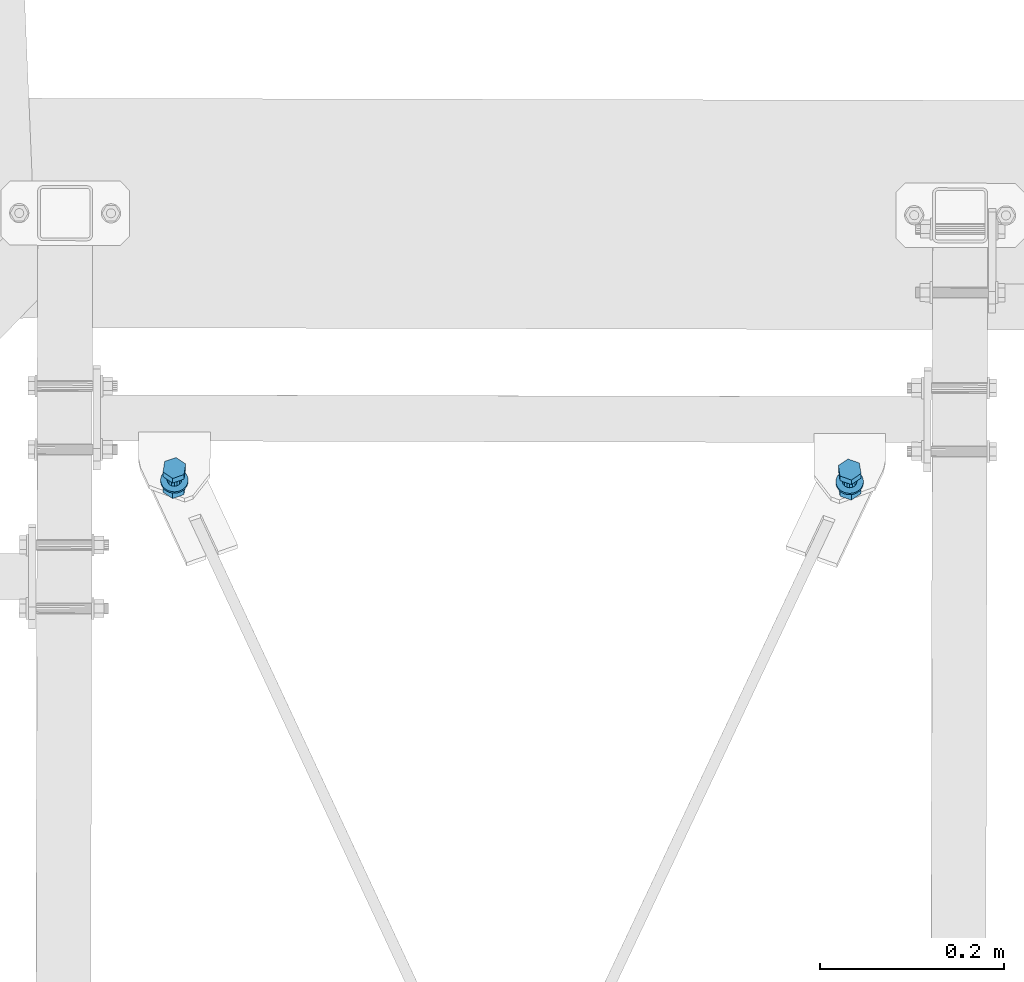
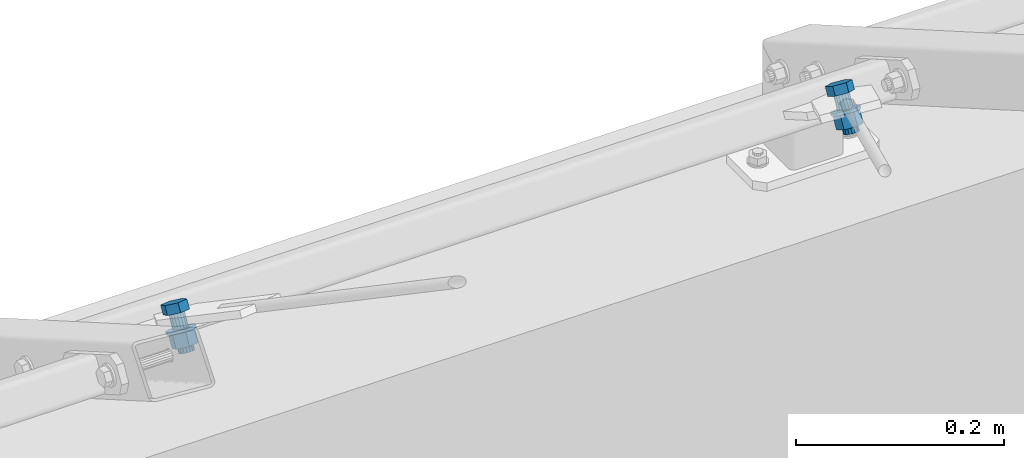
# One storey, part 198 of 288: 2 mechanical fasteners.
"""IFC2X3 building model written with IfcOpenShell, lengths in millimetres."""

from ifc_helpers import new_model, entity, si_unit, converted_unit, origin_with_axes, place, context, project, spatial, faceted_brep, element, save


model = new_model("IFC2X3")

# Units and contexts
model_context = context("Model", 3, precision=1e-09, world=origin_with_axes())
ifc_project = project(units=[si_unit("LENGTHUNIT", "METRE", prefix="MILLI"), si_unit("AREAUNIT", "SQUARE_METRE"), si_unit("VOLUMEUNIT", "CUBIC_METRE"), converted_unit("PLANEANGLEUNIT", "DEGREE", entity("IfcPlaneAngleMeasure", 0.01745329), si_unit("PLANEANGLEUNIT", "RADIAN"), dimensions=[0, 0, 0, 0, 0, 0, 0])], contexts=[model_context])

# Site, building, storey
site_placement = place(None, origin_with_axes())
site = spatial("IfcSite", under=ifc_project, at=site_placement, Name="Remont ?wietlik?w nad MC w NCPP w Opolu", CompositionType="ELEMENT")
building_placement = place(site_placement, origin_with_axes())
building = spatial("IfcBuilding", under=site, at=building_placement, Name="Konstrukcja 1", CompositionType="ELEMENT")
storey_placement = place(building_placement, origin_with_axes())
storey = spatial("IfcBuildingStorey", under=building, at=storey_placement, Name="Default Storey", CompositionType="ELEMENT", Elevation=0.0)

# Mechanical fasteners
mechanical_fastener_1_placement = place(None, origin_with_axes())
element("IfcMechanicalFastener", 1, at=mechanical_fastener_1_placement, inside=storey, ObjectType="Bolt#1", NominalDiameter=16.0, NominalLength=40.0, context=model_context, shape_type="Brep", body=[
    faceted_brep([(2812.094746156, 1589.002316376, 290.619679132), (2812.106018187, 1594.002300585, 299.279934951), (2810.294540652, 1605.479692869, 292.655839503), (2810.283268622, 1600.47970866, 283.995583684), (2820.865156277, 1612.570531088, 288.5481974), (2820.853884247, 1607.570546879, 279.887941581), (2833.247249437, 1608.183977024, 291.064650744), (2833.235977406, 1603.183992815, 282.404394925), (2835.058726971, 1596.70658474, 297.688746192), (2835.047454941, 1591.706600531, 289.028490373), (2824.488111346, 1589.615746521, 301.796388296), (2824.476839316, 1584.615762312, 293.136132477)], [[[0, 1, 2, 3]], [[3, 2, 4, 5]], [[5, 4, 6, 7]], [[7, 6, 8, 9]], [[9, 8, 10, 11]], [[11, 10, 1, 0]], [[4, 2, 1, 10, 8, 6]], [[0, 3, 5, 7, 9, 11]]]),
    faceted_brep([(2825.690163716, 1602.505340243, 282.806035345), (2825.672128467, 1594.505365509, 268.949626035), (2822.607682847, 1595.021326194, 268.655725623), (2822.625718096, 1603.021300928, 282.512134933), (2819.549272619, 1594.482539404, 268.970774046), (2819.567307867, 1602.482514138, 282.827183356), (2816.962513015, 1592.971030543, 269.846808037), (2816.980548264, 1600.971005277, 283.703217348), (2815.241214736, 1590.716913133, 271.150459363), (2815.259249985, 1598.716887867, 285.006868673), (2814.647429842, 1588.063356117, 272.683258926), (2814.66546509, 1596.063330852, 286.539668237), (2815.271556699, 1585.414339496, 274.211851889), (2815.289591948, 1593.41431423, 288.068261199), (2817.018577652, 1583.173152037, 275.503523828), (2817.036612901, 1591.173126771, 289.359933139), (2819.622524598, 1581.680994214, 276.361629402), (2819.640559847, 1589.680968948, 290.218038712), (2822.686970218, 1581.165033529, 276.655529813), (2822.705005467, 1589.165008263, 290.511939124), (2825.745380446, 1581.703820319, 276.340481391), (2825.763415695, 1589.703795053, 290.196890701), (2828.33214005, 1583.21532918, 275.464447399), (2828.350175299, 1591.215303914, 289.32085671), (2830.053438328, 1585.469446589, 274.160796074), (2830.071473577, 1593.469421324, 288.017205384), (2830.647223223, 1588.123003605, 272.62799651), (2830.665258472, 1596.122978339, 286.484405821), (2830.023096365, 1590.772020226, 271.099403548), (2830.041131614, 1598.771994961, 284.955812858), (2828.276075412, 1593.013207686, 269.807731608), (2828.294110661, 1601.01318242, 283.664140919)], [[[0, 1, 2, 3]], [[3, 2, 4, 5]], [[5, 4, 6, 7]], [[7, 6, 8, 9]], [[9, 8, 10, 11]], [[11, 10, 12, 13]], [[13, 12, 14, 15]], [[15, 14, 16, 17]], [[17, 16, 18, 19]], [[19, 18, 20, 21]], [[21, 20, 22, 23]], [[23, 22, 24, 25]], [[25, 24, 26, 27]], [[27, 26, 28, 29]], [[29, 28, 30, 31]], [[31, 30, 1, 0]], [[0, 3, 5, 7, 9, 11, 13, 15, 17, 19, 21, 23, 25, 27, 29, 31]], [[1, 30, 28, 26, 24, 22, 20, 18, 16, 14, 12, 10, 8, 6, 4, 2]]]),
    faceted_brep([(2828.31883016, 1600.116027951, 265.706874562), (2828.31544855, 1598.616032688, 263.108797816), (2825.49735832, 1599.34476385, 262.691734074), (2825.500739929, 1600.844759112, 265.28981082), (2822.569613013, 1599.583458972, 262.557734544), (2822.572994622, 1601.083454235, 265.15581129), (2819.644724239, 1599.322945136, 262.711948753), (2819.648105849, 1600.822940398, 265.310025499), (2816.835093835, 1598.57323374, 263.148450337), (2816.838475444, 1600.073229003, 265.746527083), (2814.24869432, 1597.363135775, 263.850464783), (2814.252075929, 1598.863131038, 266.448541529), (2811.984919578, 1595.739154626, 264.79101407), (2811.988301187, 1597.239149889, 267.389090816), (2810.130765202, 1593.763698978, 265.933953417), (2810.134146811, 1595.263694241, 268.532030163), (2808.757485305, 1591.512684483, 267.235360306), (2808.760866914, 1593.012679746, 269.833437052), (2807.917854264, 1589.072616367, 268.645222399), (2807.921235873, 1590.57261163, 271.243299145), (2807.644138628, 1586.537265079, 270.109359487), (2807.647520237, 1588.037260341, 272.707436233), (2807.946857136, 1584.004062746, 271.571505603), (2807.950238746, 1585.504058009, 274.169582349), (2808.814376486, 1581.570358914, 272.975471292), (2808.817758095, 1583.070354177, 275.573548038), (2810.213358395, 1579.329679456, 274.267302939), (2810.216740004, 1580.829674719, 276.865379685), (2812.090040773, 1577.368132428, 275.397356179), (2812.093422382, 1578.86812769, 277.995432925), (2814.372303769, 1575.761098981, 276.322203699), (2814.375685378, 1577.261094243, 278.920280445), (2816.972441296, 1574.570336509, 277.006304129), (2816.975822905, 1576.070331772, 279.604380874), (2819.790531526, 1573.841605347, 277.423367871), (2819.793913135, 1575.34160061, 280.021444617), (2822.718276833, 1573.602910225, 277.557367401), (2822.721658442, 1575.102905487, 280.155444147), (2825.643165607, 1573.863424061, 277.403153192), (2825.646547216, 1575.363419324, 280.001229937), (2828.452796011, 1574.613135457, 276.966651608), (2828.45617762, 1576.113130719, 279.564728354), (2831.039195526, 1575.823233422, 276.264637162), (2831.042577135, 1577.323228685, 278.862713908), (2833.302970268, 1577.447214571, 275.324087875), (2833.306351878, 1578.947209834, 277.92216462), (2835.157124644, 1579.422670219, 274.181148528), (2835.160506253, 1580.922665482, 276.779225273), (2836.530404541, 1581.673684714, 272.879741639), (2836.53378615, 1583.173679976, 275.477818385), (2837.370035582, 1584.11375283, 271.469879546), (2837.373417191, 1585.613748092, 274.067956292), (2837.643751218, 1586.649104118, 270.005742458), (2837.647132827, 1588.149099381, 272.603819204), (2837.34103271, 1589.182306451, 268.543596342), (2837.344414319, 1590.682301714, 271.141673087), (2836.47351336, 1591.616010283, 267.139630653), (2836.476894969, 1593.116005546, 269.737707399), (2835.074531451, 1593.856689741, 265.847799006), (2835.07791306, 1595.356685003, 268.445875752), (2833.197849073, 1595.818236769, 264.717745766), (2833.201230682, 1597.318232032, 267.315822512), (2830.915586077, 1597.425270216, 263.792898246), (2830.918967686, 1598.925265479, 266.390974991)], [[[0, 1, 2, 3]], [[3, 2, 4, 5]], [[5, 4, 6, 7]], [[7, 6, 8, 9]], [[9, 8, 10, 11]], [[11, 10, 12, 13]], [[13, 12, 14, 15]], [[15, 14, 16, 17]], [[17, 16, 18, 19]], [[19, 18, 20, 21]], [[21, 20, 22, 23]], [[23, 22, 24, 25]], [[25, 24, 26, 27]], [[27, 26, 28, 29]], [[29, 28, 30, 31]], [[31, 30, 32, 33]], [[33, 32, 34, 35]], [[35, 34, 36, 37]], [[37, 36, 38, 39]], [[39, 38, 40, 41]], [[41, 40, 42, 43]], [[43, 42, 44, 45]], [[45, 44, 46, 47]], [[47, 46, 48, 49]], [[49, 48, 50, 51]], [[51, 50, 52, 53]], [[53, 52, 54, 55]], [[55, 54, 56, 57]], [[57, 56, 58, 59]], [[59, 58, 60, 61]], [[61, 60, 62, 63]], [[63, 62, 1, 0]], [[0, 3, 5, 7, 9, 11, 13, 15, 17, 19, 21, 23, 25, 27, 29, 31, 33, 35, 37, 39, 41, 43, 45, 47, 49, 51, 53, 55, 57, 59, 61, 63]], [[1, 62, 60, 58, 56, 54, 52, 50, 48, 46, 44, 42, 40, 38, 36, 34, 32, 30, 28, 26, 24, 22, 20, 18, 16, 14, 12, 10, 8, 6, 4, 2]]]),
    faceted_brep([(2812.056646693, 1572.102369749, 261.348014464), (2812.073329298, 1579.502346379, 274.165193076), (2810.261851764, 1590.979738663, 267.541097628), (2810.245169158, 1583.579762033, 254.723919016), (2820.832467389, 1598.070576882, 263.433455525), (2820.815784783, 1590.670600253, 250.616276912), (2833.214560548, 1593.684022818, 265.949908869), (2833.197877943, 1586.284046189, 253.132730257), (2835.026038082, 1582.206630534, 272.574004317), (2835.009355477, 1574.806653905, 259.756825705), (2824.455422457, 1575.115792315, 276.68164642), (2824.438739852, 1567.715815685, 263.864467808)], [[[0, 1, 2, 3]], [[3, 2, 4, 5]], [[5, 4, 6, 7]], [[7, 6, 8, 9]], [[9, 8, 10, 11]], [[11, 10, 1, 0]], [[4, 2, 1, 10, 8, 6]], [[0, 3, 5, 7, 9, 11]]]),
    faceted_brep([(2825.652064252, 1585.605393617, 253.534370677), (2825.645075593, 1582.505403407, 248.165012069), (2822.580629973, 1583.021364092, 247.871111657), (2822.587618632, 1586.121354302, 253.240470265), (2819.522219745, 1582.482577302, 248.18616008), (2819.529208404, 1585.582567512, 253.555518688), (2816.935460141, 1580.971068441, 249.062194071), (2816.9424488, 1584.071058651, 254.431552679), (2815.214161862, 1578.716951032, 250.365845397), (2815.221150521, 1581.816941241, 255.735204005), (2814.620376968, 1576.063394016, 251.89864496), (2814.627365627, 1579.163384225, 257.268003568), (2815.244503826, 1573.414377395, 253.427237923), (2815.251492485, 1576.514367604, 258.796596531), (2816.991524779, 1571.173189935, 254.718909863), (2816.998513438, 1574.273180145, 260.08826847), (2819.595471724, 1569.681032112, 255.577015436), (2819.602460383, 1572.781022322, 260.946374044), (2822.659917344, 1569.165071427, 255.870915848), (2822.666906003, 1572.265061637, 261.240274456), (2825.718327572, 1569.703858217, 255.555867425), (2825.725316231, 1572.803848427, 260.925226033), (2828.305087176, 1571.215367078, 254.679833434), (2828.312075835, 1574.315357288, 260.049192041), (2830.026385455, 1573.469484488, 253.376182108), (2830.033374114, 1576.569474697, 258.745540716), (2830.620170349, 1576.123041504, 251.843382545), (2830.627159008, 1579.223031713, 257.212741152), (2829.996043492, 1578.772058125, 250.314789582), (2830.003032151, 1581.872048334, 255.68414819), (2828.249022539, 1581.013245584, 249.023117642), (2828.256011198, 1584.113235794, 254.39247625)], [[[0, 1, 2, 3]], [[3, 2, 4, 5]], [[5, 4, 6, 7]], [[7, 6, 8, 9]], [[9, 8, 10, 11]], [[11, 10, 12, 13]], [[13, 12, 14, 15]], [[15, 14, 16, 17]], [[17, 16, 18, 19]], [[19, 18, 20, 21]], [[21, 20, 22, 23]], [[23, 22, 24, 25]], [[25, 24, 26, 27]], [[27, 26, 28, 29]], [[29, 28, 30, 31]], [[31, 30, 1, 0]], [[0, 3, 5, 7, 9, 11, 13, 15, 17, 19, 21, 23, 25, 27, 29, 31]], [[1, 30, 28, 26, 24, 22, 20, 18, 16, 14, 12, 10, 8, 6, 4, 2]]]),
])
mechanical_fastener_2_placement = place(None, origin_with_axes())
element("IfcMechanicalFastener", 2, at=mechanical_fastener_2_placement, inside=storey, ObjectType="Bolt#1", NominalDiameter=16.0, NominalLength=40.0, context=model_context, shape_type="Brep", body=[
    faceted_brep([(2097.246459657, 1595.618042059, 299.277537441), (2097.235187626, 1590.61805785, 290.617281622), (2099.098573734, 1602.087144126, 283.993198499), (2099.109845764, 1607.087128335, 292.653454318), (2088.56014724, 1609.225693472, 279.8854856), (2088.57141927, 1614.225677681, 288.545741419), (2076.158334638, 1604.895156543, 282.401855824), (2076.169606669, 1609.895140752, 291.062111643), (2074.294948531, 1593.426070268, 289.025938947), (2074.306220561, 1598.426054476, 297.686194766), (2084.833375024, 1586.287520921, 293.133651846), (2084.844647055, 1591.28750513, 301.793907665)], [[[0, 1, 2, 3]], [[3, 2, 4, 5]], [[5, 4, 6, 7]], [[7, 6, 8, 9]], [[9, 8, 10, 11]], [[11, 10, 1, 0]], [[3, 5, 7, 9, 11, 0]], [[2, 1, 10, 8, 6, 4]]]),
    faceted_brep([(2083.682965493, 1596.182425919, 268.947137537), (2083.701000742, 1604.182400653, 282.803546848), (2086.767749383, 1604.684503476, 282.509666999), (2086.749714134, 1596.684528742, 268.653257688), (2089.823690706, 1604.131896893, 282.824735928), (2089.805655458, 1596.131922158, 268.968326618), (2092.403585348, 1602.608710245, 283.700787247), (2092.385550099, 1594.608735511, 269.844377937), (2094.114667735, 1600.346834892, 285.004450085), (2094.096632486, 1592.346860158, 271.148040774), (2094.696441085, 1597.690620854, 286.537253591), (2094.678405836, 1589.690646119, 272.68084428), (2094.06033568, 1595.044452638, 288.065842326), (2094.042300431, 1587.044477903, 274.209433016), (2092.303192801, 1592.811185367, 289.357502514), (2092.285157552, 1584.811210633, 275.501093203), (2089.692521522, 1591.33081374, 290.215590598), (2089.674486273, 1583.330839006, 276.359181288), (2086.625772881, 1590.828710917, 290.509470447), (2086.607737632, 1582.828736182, 276.653061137), (2083.569831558, 1591.3813175, 290.194401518), (2083.551796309, 1583.381342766, 276.337992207), (2080.989936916, 1592.904504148, 289.318350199), (2080.971901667, 1584.904529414, 275.461940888), (2079.278854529, 1595.166379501, 288.014687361), (2079.26081928, 1587.166404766, 274.158278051), (2078.697081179, 1597.822593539, 286.481883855), (2078.67904593, 1589.822618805, 272.625474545), (2079.333186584, 1600.468761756, 284.95329512), (2079.315151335, 1592.468787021, 271.096885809), (2081.090329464, 1602.702029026, 283.661634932), (2081.072294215, 1594.702054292, 269.805225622)], [[[0, 1, 2, 3]], [[3, 2, 4, 5]], [[5, 4, 6, 7]], [[7, 6, 8, 9]], [[9, 8, 10, 11]], [[11, 10, 12, 13]], [[13, 12, 14, 15]], [[15, 14, 16, 17]], [[17, 16, 18, 19]], [[19, 18, 20, 21]], [[21, 20, 22, 23]], [[23, 22, 24, 25]], [[25, 24, 26, 27]], [[27, 26, 28, 29]], [[29, 28, 30, 31]], [[31, 30, 1, 0]], [[2, 1, 30, 28, 26, 24, 22, 20, 18, 16, 14, 12, 10, 8, 6, 4]], [[31, 0, 3, 5, 7, 9, 11, 13, 15, 17, 19, 21, 23, 25, 27, 29]]]),
    faceted_brep([(2081.058293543, 1600.304999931, 263.106291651), (2081.061675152, 1601.804995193, 265.704368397), (2083.883033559, 1602.520979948, 265.287323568), (2083.87965195, 1601.020984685, 262.689246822), (2086.811828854, 1602.746437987, 265.15334368), (2086.808447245, 1601.246442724, 262.555266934), (2089.735509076, 1602.472705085, 265.307577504), (2089.732127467, 1600.972709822, 262.709500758), (2092.541718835, 1601.710300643, 265.744097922), (2092.538337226, 1600.21030538, 263.146021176), (2095.122617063, 1600.488523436, 266.446129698), (2095.119235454, 1598.988528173, 263.848052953), (2097.379021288, 1598.854325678, 267.386694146), (2097.375639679, 1597.354330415, 264.7886174), (2099.224219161, 1596.870508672, 268.5296459), (2099.220837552, 1595.370513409, 265.931569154), (2100.587300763, 1594.613309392, 269.831061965), (2100.583919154, 1593.113314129, 267.23298522), (2101.415883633, 1592.169470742, 271.240929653), (2101.412502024, 1590.669475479, 268.642852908), (2101.678125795, 1589.632908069, 272.705068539), (2101.674744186, 1588.132912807, 270.106991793), (2101.36394943, 1587.101100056, 274.167212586), (2101.360567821, 1585.601104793, 271.56913584), (2100.48542816, 1584.671342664, 275.571172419), (2100.482046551, 1583.171347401, 272.973095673), (2099.076323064, 1582.437010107, 276.862994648), (2099.072941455, 1580.937014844, 274.264917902), (2097.190785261, 1580.483966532, 277.99303527), (2097.187403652, 1578.983971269, 275.394958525), (2094.901274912, 1578.887266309, 278.917867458), (2094.897893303, 1577.387271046, 276.319790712), (2092.295776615, 1577.708269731, 279.601950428), (2092.292395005, 1576.208274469, 277.003873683), (2089.474418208, 1576.992284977, 280.018995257), (2089.471036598, 1575.492289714, 277.420918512), (2086.545622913, 1576.766826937, 280.152975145), (2086.542241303, 1575.266831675, 277.5548984), (2083.62194269, 1577.04055984, 279.998741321), (2083.618561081, 1575.540564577, 277.400664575), (2080.815732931, 1577.802964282, 279.562220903), (2080.812351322, 1576.302969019, 276.964144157), (2078.234834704, 1579.024741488, 278.860189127), (2078.231453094, 1577.524746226, 276.262112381), (2075.978430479, 1580.658939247, 277.919624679), (2075.975048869, 1579.158943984, 275.321547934), (2074.133232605, 1582.642756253, 276.776672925), (2074.129850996, 1581.14276099, 274.17859618), (2072.770151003, 1584.899955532, 275.47525686), (2072.766769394, 1583.39996027, 272.877180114), (2071.941568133, 1587.343794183, 274.065389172), (2071.938186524, 1585.84379892, 271.467312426), (2071.679325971, 1589.880356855, 272.601250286), (2071.675944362, 1588.380361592, 270.00317354), (2071.993502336, 1592.412164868, 271.139106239), (2071.990120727, 1590.912169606, 268.541029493), (2072.872023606, 1594.84192226, 269.735146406), (2072.868641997, 1593.341926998, 267.13706966), (2074.281128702, 1597.076254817, 268.443324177), (2074.277747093, 1595.576259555, 265.845247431), (2076.166666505, 1599.029298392, 267.313283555), (2076.163284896, 1597.52930313, 264.715206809), (2078.456176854, 1600.625998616, 266.388451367), (2078.452795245, 1599.126003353, 263.790374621)], [[[0, 1, 2, 3]], [[3, 2, 4, 5]], [[5, 4, 6, 7]], [[7, 6, 8, 9]], [[9, 8, 10, 11]], [[11, 10, 12, 13]], [[13, 12, 14, 15]], [[15, 14, 16, 17]], [[17, 16, 18, 19]], [[19, 18, 20, 21]], [[21, 20, 22, 23]], [[23, 22, 24, 25]], [[25, 24, 26, 27]], [[27, 26, 28, 29]], [[29, 28, 30, 31]], [[31, 30, 32, 33]], [[33, 32, 34, 35]], [[35, 34, 36, 37]], [[37, 36, 38, 39]], [[39, 38, 40, 41]], [[41, 40, 42, 43]], [[43, 42, 44, 45]], [[45, 44, 46, 47]], [[47, 46, 48, 49]], [[49, 48, 50, 51]], [[51, 50, 52, 53]], [[53, 52, 54, 55]], [[55, 54, 56, 57]], [[57, 56, 58, 59]], [[59, 58, 60, 61]], [[61, 60, 62, 63]], [[63, 62, 1, 0]], [[2, 1, 62, 60, 58, 56, 54, 52, 50, 48, 46, 44, 42, 40, 38, 36, 34, 32, 30, 28, 26, 24, 22, 20, 18, 16, 14, 12, 10, 8, 6, 4]], [[63, 0, 3, 5, 7, 9, 11, 13, 15, 17, 19, 21, 23, 25, 27, 29, 31, 33, 35, 37, 39, 41, 43, 45, 47, 49, 51, 53, 55, 57, 59, 61]]]),
    faceted_brep([(2097.213770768, 1581.118087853, 274.162795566), (2097.197088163, 1573.718111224, 261.345616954), (2099.06047427, 1585.187197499, 254.721533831), (2099.077156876, 1592.587174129, 267.538712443), (2088.522047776, 1592.325746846, 250.613820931), (2088.538730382, 1599.725723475, 263.430999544), (2076.120235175, 1587.995209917, 253.130191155), (2076.13691778, 1595.395186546, 265.947369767), (2074.256849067, 1576.526123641, 259.754274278), (2074.273531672, 1583.92610027, 272.57145289), (2084.795275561, 1569.387574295, 263.861987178), (2084.811958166, 1576.787550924, 276.67916579)], [[[0, 1, 2, 3]], [[3, 2, 4, 5]], [[5, 4, 6, 7]], [[7, 6, 8, 9]], [[9, 8, 10, 11]], [[11, 10, 1, 0]], [[3, 5, 7, 9, 11, 0]], [[2, 1, 10, 8, 6, 4]]]),
    faceted_brep([(2083.65591262, 1584.182463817, 248.162523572), (2083.662901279, 1587.282454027, 253.531882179), (2086.72964992, 1587.78455685, 253.23800233), (2086.722661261, 1584.684566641, 247.868643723), (2089.785591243, 1587.231950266, 253.55307126), (2089.778602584, 1584.131960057, 248.183712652), (2092.365485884, 1585.708763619, 254.429122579), (2092.358497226, 1582.608773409, 249.059763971), (2094.076568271, 1583.446888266, 255.732785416), (2094.069579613, 1580.346898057, 250.363426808), (2094.658341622, 1580.790674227, 257.265588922), (2094.651352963, 1577.690684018, 251.896230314), (2094.022236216, 1578.144506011, 258.794177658), (2094.015247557, 1575.044515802, 253.42481905), (2092.265093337, 1575.911238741, 260.085837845), (2092.258104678, 1572.811248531, 254.716479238), (2089.654422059, 1574.430867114, 260.94392593), (2089.6474334, 1571.330876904, 255.574567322), (2086.587673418, 1573.92876429, 261.237805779), (2086.580684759, 1570.828774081, 255.868447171), (2083.531732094, 1574.481370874, 260.922736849), (2083.524743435, 1571.381380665, 255.553378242), (2080.951837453, 1576.004557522, 260.04668553), (2080.944848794, 1572.904567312, 254.677326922), (2079.240755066, 1578.266432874, 258.743022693), (2079.233766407, 1575.166442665, 253.373664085), (2078.658981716, 1580.922646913, 257.210219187), (2078.651993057, 1577.822656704, 251.840860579), (2079.295087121, 1583.568815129, 255.681630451), (2079.288098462, 1580.46882492, 250.312271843), (2081.05223, 1585.8020824, 254.389970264), (2081.045241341, 1582.70209219, 249.020611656)], [[[0, 1, 2, 3]], [[3, 2, 4, 5]], [[5, 4, 6, 7]], [[7, 6, 8, 9]], [[9, 8, 10, 11]], [[11, 10, 12, 13]], [[13, 12, 14, 15]], [[15, 14, 16, 17]], [[17, 16, 18, 19]], [[19, 18, 20, 21]], [[21, 20, 22, 23]], [[23, 22, 24, 25]], [[25, 24, 26, 27]], [[27, 26, 28, 29]], [[29, 28, 30, 31]], [[31, 30, 1, 0]], [[2, 1, 30, 28, 26, 24, 22, 20, 18, 16, 14, 12, 10, 8, 6, 4]], [[31, 0, 3, 5, 7, 9, 11, 13, 15, 17, 19, 21, 23, 25, 27, 29]]]),
])

save(model, "model.ifc")
